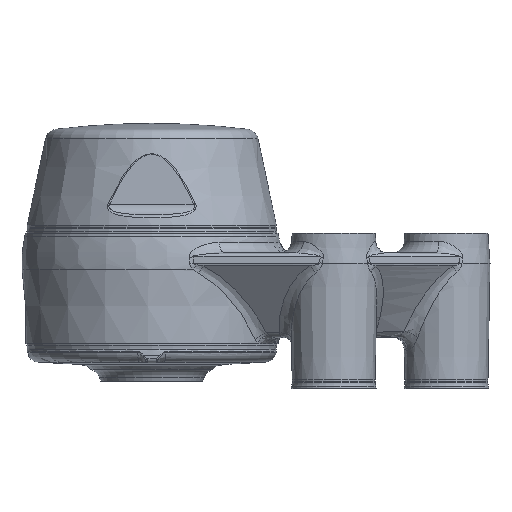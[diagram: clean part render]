
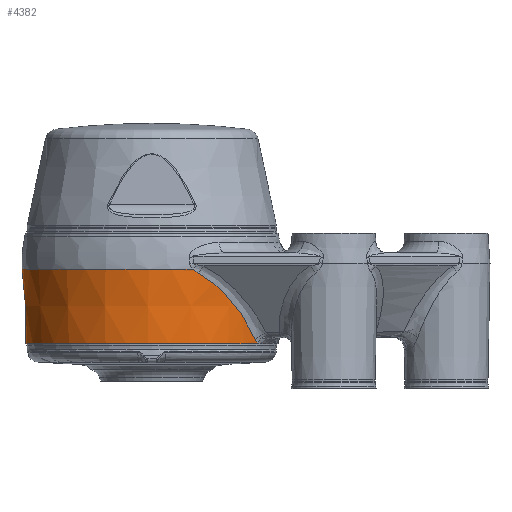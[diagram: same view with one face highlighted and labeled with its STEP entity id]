
A CAD part, left-side view. The second image highlights one B-rep face of the part: STEP entity #4382.
In plain terms, the highlighted conical face has half-angle 2.646 degrees and reference radius 33 mm.
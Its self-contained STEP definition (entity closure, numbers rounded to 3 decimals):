
#26 = CARTESIAN_POINT ( 'NONE',  ( 31.089, -10.477, 4.828 ) ) ;
#202 = DIRECTION ( 'NONE',  ( 0., 0., -1. ) ) ;
#522 = CARTESIAN_POINT ( 'NONE',  ( -17.471, -26.74, -13.9 ) ) ;
#694 = VERTEX_POINT ( 'NONE', #4679 ) ;
#1616 = B_SPLINE_CURVE_WITH_KNOTS ( 'NONE', 3,
 ( #5084, #15141, #4598, #14649 ),
 .UNSPECIFIED., .F., .F.,
 ( 4, 4 ),
 ( 0., 0.001 ),
 .UNSPECIFIED. ) ;
#1986 = DIRECTION ( 'NONE',  ( 0., 1., 0. ) ) ;
#2010 = B_SPLINE_CURVE_WITH_KNOTS ( 'NONE', 3,
 ( #12498, #12835, #25182, #2631 ),
 .UNSPECIFIED., .F., .F.,
 ( 4, 4 ),
 ( 0.005, 0.006 ),
 .UNSPECIFIED. ) ;
#2053 = EDGE_LOOP ( 'NONE', ( #2260, #5774, #6501, #10108, #25880, #20263, #8787, #31691, #28162, #4898 ) ) ;
#2260 = ORIENTED_EDGE ( 'NONE', *, *, #5955, .T. ) ;
#2267 = EDGE_CURVE ( 'NONE', #16781, #16261, #9616, .T. ) ;
#2585 = EDGE_CURVE ( 'NONE', #16641, #25561, #31072, .T. ) ;
#2631 = CARTESIAN_POINT ( 'NONE',  ( -18.222, -26.282, -13.044 ) ) ;
#3338 = CARTESIAN_POINT ( 'NONE',  ( 28.976, -15.175, 1.703 ) ) ;
#3460 = CARTESIAN_POINT ( 'NONE',  ( -20.589, -24.713, -9.793 ) ) ;
#3626 = CARTESIAN_POINT ( 'NONE',  ( -29.83, -13.574, 2.872 ) ) ;
#3902 = CONICAL_SURFACE ( 'NONE', #29641, 33., 0.046 ) ;
#4242 = AXIS2_PLACEMENT_3D ( 'NONE', #12528, #28340, #26186 ) ;
#4359 = CARTESIAN_POINT ( 'NONE',  ( -30.566, -11.798, 3.878 ) ) ;
#4382 = ADVANCED_FACE ( 'NONE', ( #28469 ), #3902, .T. ) ;
#4598 = CARTESIAN_POINT ( 'NONE',  ( 17.742, -26.577, -13.643 ) ) ;
#4679 = CARTESIAN_POINT ( 'NONE',  ( 17.471, -26.74, -13.9 ) ) ;
#4898 = ORIENTED_EDGE ( 'NONE', *, *, #24236, .T. ) ;
#4958 = CARTESIAN_POINT ( 'NONE',  ( -30.93, -10.89, 4.466 ) ) ;
#5084 = CARTESIAN_POINT ( 'NONE',  ( 18.222, -26.282, -13.044 ) ) ;
#5416 = DIRECTION ( 'NONE',  ( 0., -1., 0. ) ) ;
#5655 = B_SPLINE_CURVE_WITH_KNOTS ( 'NONE', 3,
 ( #8283, #23746, #3338, #28357, #30811, #6272, #18950, #8760, #18800, #28828 ),
 .UNSPECIFIED., .F., .F.,
 ( 4, 2, 2, 2, 4 ),
 ( 0., 0.006, 0.013, 0.019, 0.026 ),
 .UNSPECIFIED. ) ;
#5728 = VERTEX_POINT ( 'NONE', #30109 ) ;
#5760 = CARTESIAN_POINT ( 'NONE',  ( -26.089, -19.412, -2.251 ) ) ;
#5774 = ORIENTED_EDGE ( 'NONE', *, *, #2267, .T. ) ;
#5955 = EDGE_CURVE ( 'NONE', #694, #16781, #17587, .T. ) ;
#6061 = DIRECTION ( 'NONE',  ( 0., 0., 1. ) ) ;
#6272 = CARTESIAN_POINT ( 'NONE',  ( 23.98, -21.766, -5.142 ) ) ;
#6413 = CARTESIAN_POINT ( 'NONE',  ( 30.566, -11.798, 3.878 ) ) ;
#6439 = DIRECTION ( 'NONE',  ( 0., 0., 1. ) ) ;
#6444 = CARTESIAN_POINT ( 'NONE',  ( 30.93, -10.89, 4.466 ) ) ;
#6501 = ORIENTED_EDGE ( 'NONE', *, *, #24985, .T. ) ;
#6828 = B_SPLINE_CURVE_WITH_KNOTS ( 'NONE', 3,
 ( #11245, #31468, #6444, #21919, #14037, #21752 ),
 .UNSPECIFIED., .F., .F.,
 ( 4, 2, 4 ),
 ( 0., 0.001, 0.002 ),
 .UNSPECIFIED. ) ;
#6842 = EDGE_CURVE ( 'NONE', #31975, #22915, #19704, .T. ) ;
#7917 = CARTESIAN_POINT ( 'NONE',  ( -30.566, -11.798, 3.878 ) ) ;
#8169 = AXIS2_PLACEMENT_3D ( 'NONE', #26717, #202, #27701 ) ;
#8283 = CARTESIAN_POINT ( 'NONE',  ( 30.566, -11.798, 3.878 ) ) ;
#8760 = CARTESIAN_POINT ( 'NONE',  ( 20.589, -24.713, -9.793 ) ) ;
#8787 = ORIENTED_EDGE ( 'NONE', *, *, #21229, .T. ) ;
#8927 = CARTESIAN_POINT ( 'NONE',  ( 0., 0., -13.9 ) ) ;
#9616 = CIRCLE ( 'NONE', #12219, 31.942 ) ;
#10108 = ORIENTED_EDGE ( 'NONE', *, *, #2585, .T. ) ;
#10158 = CARTESIAN_POINT ( 'NONE',  ( -18.222, -26.282, -13.044 ) ) ;
#10743 = CARTESIAN_POINT ( 'NONE',  ( 0., 31.942, -13.9 ) ) ;
#10877 = CARTESIAN_POINT ( 'NONE',  ( -27.095, -18.111, -0.873 ) ) ;
#11043 = CARTESIAN_POINT ( 'NONE',  ( -23.98, -21.766, -5.142 ) ) ;
#11245 = CARTESIAN_POINT ( 'NONE',  ( 31.089, -10.477, 4.828 ) ) ;
#12094 = CARTESIAN_POINT ( 'NONE',  ( 0., 0., -13.9 ) ) ;
#12219 = AXIS2_PLACEMENT_3D ( 'NONE', #8927, #6439, #1986 ) ;
#12498 = CARTESIAN_POINT ( 'NONE',  ( -17.471, -26.74, -13.9 ) ) ;
#12528 = CARTESIAN_POINT ( 'NONE',  ( 0., 0., 4.828 ) ) ;
#12835 = CARTESIAN_POINT ( 'NONE',  ( -17.742, -26.577, -13.643 ) ) ;
#13249 = CARTESIAN_POINT ( 'NONE',  ( -31.089, -10.477, 4.828 ) ) ;
#13508 = CARTESIAN_POINT ( 'NONE',  ( -22.877, -22.818, -6.655 ) ) ;
#14037 = CARTESIAN_POINT ( 'NONE',  ( 30.663, -11.563, 4.011 ) ) ;
#14649 = CARTESIAN_POINT ( 'NONE',  ( 17.471, -26.74, -13.9 ) ) ;
#15012 = CARTESIAN_POINT ( 'NONE',  ( -30.566, -11.798, 3.878 ) ) ;
#15141 = CARTESIAN_POINT ( 'NONE',  ( 17.993, -26.424, -13.359 ) ) ;
#15310 = CIRCLE ( 'NONE', #4242, 32.807 ) ;
#16240 = EDGE_CURVE ( 'NONE', #25561, #31975, #26545, .T. ) ;
#16261 = VERTEX_POINT ( 'NONE', #522 ) ;
#16641 = VERTEX_POINT ( 'NONE', #10158 ) ;
#16781 = VERTEX_POINT ( 'NONE', #10743 ) ;
#17096 = AXIS2_PLACEMENT_3D ( 'NONE', #12094, #27239, #19668 ) ;
#17587 = CIRCLE ( 'NONE', #17096, 31.942 ) ;
#17822 = CARTESIAN_POINT ( 'NONE',  ( -31.013, -10.676, 4.636 ) ) ;
#17989 = EDGE_CURVE ( 'NONE', #22029, #5728, #5655, .T. ) ;
#18747 = CARTESIAN_POINT ( 'NONE',  ( 0., 0., 9. ) ) ;
#18800 = CARTESIAN_POINT ( 'NONE',  ( 19.417, -25.546, -11.402 ) ) ;
#18950 = CARTESIAN_POINT ( 'NONE',  ( 22.877, -22.818, -6.655 ) ) ;
#19668 = DIRECTION ( 'NONE',  ( 0., 1., 0. ) ) ;
#19704 = CIRCLE ( 'NONE', #8169, 32.807 ) ;
#20263 = ORIENTED_EDGE ( 'NONE', *, *, #6842, .T. ) ;
#21229 = EDGE_CURVE ( 'NONE', #22915, #24674, #15310, .T. ) ;
#21752 = CARTESIAN_POINT ( 'NONE',  ( 30.566, -11.798, 3.878 ) ) ;
#21919 = CARTESIAN_POINT ( 'NONE',  ( 30.755, -11.334, 4.154 ) ) ;
#22029 = VERTEX_POINT ( 'NONE', #6413 ) ;
#22915 = VERTEX_POINT ( 'NONE', #32526 ) ;
#23746 = CARTESIAN_POINT ( 'NONE',  ( 29.83, -13.574, 2.872 ) ) ;
#24236 = EDGE_CURVE ( 'NONE', #5728, #694, #1616, .T. ) ;
#24674 = VERTEX_POINT ( 'NONE', #26 ) ;
#24985 = EDGE_CURVE ( 'NONE', #16261, #16641, #2010, .T. ) ;
#25182 = CARTESIAN_POINT ( 'NONE',  ( -17.995, -26.422, -13.356 ) ) ;
#25561 = VERTEX_POINT ( 'NONE', #4359 ) ;
#25880 = ORIENTED_EDGE ( 'NONE', *, *, #16240, .T. ) ;
#26010 = CARTESIAN_POINT ( 'NONE',  ( -18.222, -26.282, -13.044 ) ) ;
#26168 = CARTESIAN_POINT ( 'NONE',  ( -19.417, -25.546, -11.402 ) ) ;
#26186 = DIRECTION ( 'NONE',  ( 0., 1., 0. ) ) ;
#26545 = B_SPLINE_CURVE_WITH_KNOTS ( 'NONE', 3,
 ( #15012, #27515, #32443, #4958, #17822, #29972 ),
 .UNSPECIFIED., .F., .F.,
 ( 4, 2, 4 ),
 ( 0., 0.001, 0.002 ),
 .UNSPECIFIED. ) ;
#26717 = CARTESIAN_POINT ( 'NONE',  ( 0., 0., 4.828 ) ) ;
#27239 = DIRECTION ( 'NONE',  ( 0., 0., 1. ) ) ;
#27515 = CARTESIAN_POINT ( 'NONE',  ( -30.663, -11.563, 4.011 ) ) ;
#27701 = DIRECTION ( 'NONE',  ( 0., 1., 0. ) ) ;
#28162 = ORIENTED_EDGE ( 'NONE', *, *, #17989, .T. ) ;
#28340 = DIRECTION ( 'NONE',  ( 0., 0., -1. ) ) ;
#28357 = CARTESIAN_POINT ( 'NONE',  ( 27.095, -18.111, -0.873 ) ) ;
#28469 = FACE_OUTER_BOUND ( 'NONE', #2053, .T. ) ;
#28828 = CARTESIAN_POINT ( 'NONE',  ( 18.222, -26.282, -13.044 ) ) ;
#29641 = AXIS2_PLACEMENT_3D ( 'NONE', #18747, #6061, #5416 ) ;
#29755 = EDGE_CURVE ( 'NONE', #24674, #22029, #6828, .T. ) ;
#29972 = CARTESIAN_POINT ( 'NONE',  ( -31.089, -10.477, 4.828 ) ) ;
#30109 = CARTESIAN_POINT ( 'NONE',  ( 18.222, -26.282, -13.044 ) ) ;
#30811 = CARTESIAN_POINT ( 'NONE',  ( 26.089, -19.412, -2.251 ) ) ;
#31072 = B_SPLINE_CURVE_WITH_KNOTS ( 'NONE', 3,
 ( #26010, #26168, #3460, #13508, #11043, #5760, #10877, #31106, #3626, #7917 ),
 .UNSPECIFIED., .F., .F.,
 ( 4, 2, 2, 2, 4 ),
 ( 0., 0.006, 0.013, 0.019, 0.026 ),
 .UNSPECIFIED. ) ;
#31106 = CARTESIAN_POINT ( 'NONE',  ( -28.976, -15.174, 1.704 ) ) ;
#31468 = CARTESIAN_POINT ( 'NONE',  ( 31.013, -10.676, 4.636 ) ) ;
#31691 = ORIENTED_EDGE ( 'NONE', *, *, #29755, .T. ) ;
#31975 = VERTEX_POINT ( 'NONE', #13249 ) ;
#32443 = CARTESIAN_POINT ( 'NONE',  ( -30.755, -11.334, 4.154 ) ) ;
#32526 = CARTESIAN_POINT ( 'NONE',  ( 0., 32.807, 4.828 ) ) ;
